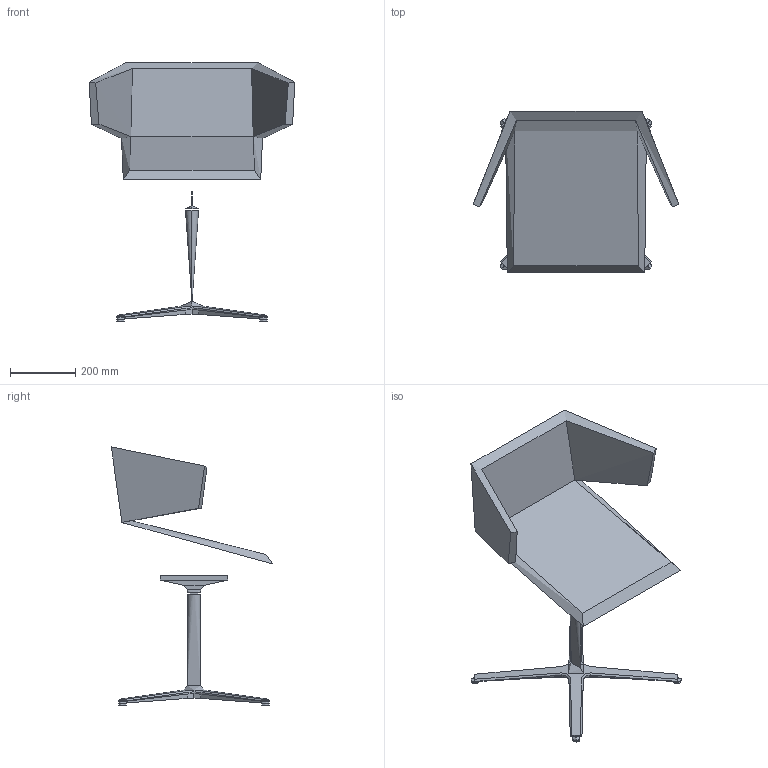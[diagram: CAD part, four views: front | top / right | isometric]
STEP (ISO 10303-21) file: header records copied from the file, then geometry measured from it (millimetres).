
FILE_DESCRIPTION(/* description */ (''),/* implementation_level */ '2;1');
FILE_NAME(/* name */ 'FLEXIP~4',/* time_stamp */ '2015-11-12T16:24:24+01:00',/* author */ (''),/* organization */ (''),/* preprocessor_version */ 'ST-DEVELOPER v15',/* originating_system */ '',/* authorisation */ '');
FILE_SCHEMA (('CONFIG_CONTROL_DESIGN'));
Length unit declared in the file: millimetre
Products named in the file (1): Document
Bounding box: 630.91 x 494.74 x 791.72 mm (x, y, z)
Volume: 20478668.7 mm3; surface area: 1281766.8 mm2
Topology: 2 solids, 8 shells, 124 faces, 297 edges, 175 vertices
Faces by surface type: bspline 98, plane 26
Entity records: 10105 total; most frequent: CARTESIAN_POINT 8404, ORIENTED_EDGE 566, EDGE_CURVE 290, VERTEX_POINT 175, ADVANCED_FACE 124, FACE_OUTER_BOUND 124, EDGE_LOOP 124, B_SPLINE_CURVE_WITH_KNOTS 92
